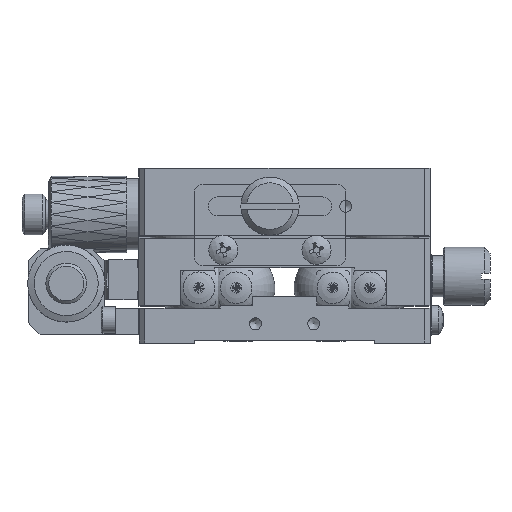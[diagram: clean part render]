
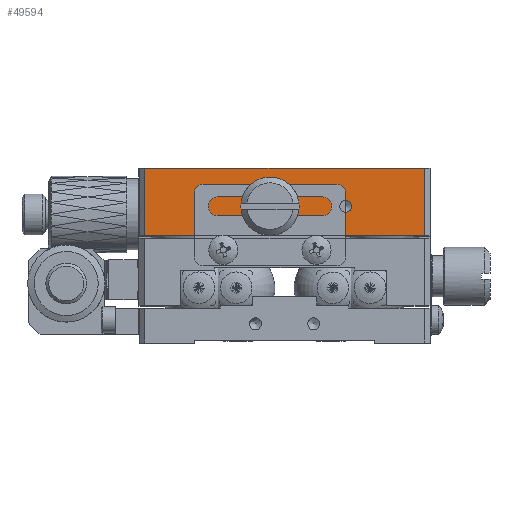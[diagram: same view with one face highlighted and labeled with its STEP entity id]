
A CAD part, top view. The second image highlights one B-rep face of the part: STEP entity #49594.
In plain terms, the highlighted planar face has unit normal (0, 0, 1).
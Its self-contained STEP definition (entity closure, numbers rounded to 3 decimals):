
#4500 = DIRECTION ( 'NONE',  ( 0., -1., 0. ) ) ;
#5150 = VECTOR ( 'NONE', #6522, 1000. ) ;
#6522 = DIRECTION ( 'NONE',  ( 1., 0., 0. ) ) ;
#8014 = LINE ( 'NONE', #98831, #5150 ) ;
#15632 = VERTEX_POINT ( 'NONE', #50055 ) ;
#15865 = FACE_OUTER_BOUND ( 'NONE', #91631, .T. ) ;
#18400 = EDGE_LOOP ( 'NONE', ( #43218 ) ) ;
#20238 = VECTOR ( 'NONE', #114127, 1000. ) ;
#22754 = ORIENTED_EDGE ( 'NONE', *, *, #141300, .F. ) ;
#23427 = AXIS2_PLACEMENT_3D ( 'NONE', #95430, #128503, #27127 ) ;
#24399 = AXIS2_PLACEMENT_3D ( 'NONE', #31782, #132412, #31041 ) ;
#27127 = DIRECTION ( 'NONE',  ( -1., 0., 0. ) ) ;
#29770 = CIRCLE ( 'NONE', #36978, 1.025 ) ;
#31041 = DIRECTION ( 'NONE',  ( 1., 0., 0. ) ) ;
#31782 = CARTESIAN_POINT ( 'NONE',  ( 22.5, 23.5, 50. ) ) ;
#34077 = CARTESIAN_POINT ( 'NONE',  ( 49., 30., 50. ) ) ;
#36978 = AXIS2_PLACEMENT_3D ( 'NONE', #76869, #122679, #136910 ) ;
#37124 = DIRECTION ( 'NONE',  ( 1., 0., 0. ) ) ;
#38049 = AXIS2_PLACEMENT_3D ( 'NONE', #103195, #58898, #37124 ) ;
#38878 = EDGE_CURVE ( 'NONE', #98290, #131621, #114399, .T. ) ;
#39741 = LINE ( 'NONE', #84063, #115355 ) ;
#43218 = ORIENTED_EDGE ( 'NONE', *, *, #121674, .F. ) ;
#48591 = CARTESIAN_POINT ( 'NONE',  ( 23.7, 23.5, 50. ) ) ;
#49594 = ADVANCED_FACE ( 'NONE', ( #49618, #59431, #118712, #15865 ), #61632, .F. ) ;
#49618 = FACE_BOUND ( 'NONE', #130152, .T. ) ;
#50055 = CARTESIAN_POINT ( 'NONE',  ( 1., 18.4, 50. ) ) ;
#55557 = CIRCLE ( 'NONE', #24399, 1.2 ) ;
#58898 = DIRECTION ( 'NONE',  ( 0., 0., 1. ) ) ;
#59431 = FACE_BOUND ( 'NONE', #18400, .T. ) ;
#60508 = EDGE_LOOP ( 'NONE', ( #78801 ) ) ;
#61632 = PLANE ( 'NONE',  #23427 ) ;
#62463 = EDGE_CURVE ( 'NONE', #145507, #15632, #39741, .T. ) ;
#63265 = ORIENTED_EDGE ( 'NONE', *, *, #111302, .F. ) ;
#66852 = CIRCLE ( 'NONE', #38049, 1.025 ) ;
#69817 = CARTESIAN_POINT ( 'NONE',  ( 0., 30., 50. ) ) ;
#73249 = EDGE_CURVE ( 'NONE', #94413, #94413, #55557, .T. ) ;
#73960 = VERTEX_POINT ( 'NONE', #85963 ) ;
#74322 = CARTESIAN_POINT ( 'NONE',  ( 36.525, 23.5, 50. ) ) ;
#75327 = CARTESIAN_POINT ( 'NONE',  ( 1., 30., 50. ) ) ;
#76869 = CARTESIAN_POINT ( 'NONE',  ( 19.5, 23.5, 50. ) ) ;
#78801 = ORIENTED_EDGE ( 'NONE', *, *, #73249, .F. ) ;
#82429 = ORIENTED_EDGE ( 'NONE', *, *, #38878, .T. ) ;
#84063 = CARTESIAN_POINT ( 'NONE',  ( 1., 30., 50. ) ) ;
#85963 = CARTESIAN_POINT ( 'NONE',  ( 20.525, 23.5, 50. ) ) ;
#91631 = EDGE_LOOP ( 'NONE', ( #63265, #121465, #124856, #82429 ) ) ;
#94413 = VERTEX_POINT ( 'NONE', #48591 ) ;
#95430 = CARTESIAN_POINT ( 'NONE',  ( 0., 30., 50. ) ) ;
#98290 = VERTEX_POINT ( 'NONE', #131429 ) ;
#98831 = CARTESIAN_POINT ( 'NONE',  ( 0., 18.4, 50. ) ) ;
#103195 = CARTESIAN_POINT ( 'NONE',  ( 35.5, 23.5, 50. ) ) ;
#111302 = EDGE_CURVE ( 'NONE', #145507, #131621, #115618, .T. ) ;
#114127 = DIRECTION ( 'NONE',  ( 1., 0., 0. ) ) ;
#114399 = LINE ( 'NONE', #146741, #144682 ) ;
#115355 = VECTOR ( 'NONE', #4500, 1000. ) ;
#115618 = LINE ( 'NONE', #69817, #20238 ) ;
#118712 = FACE_BOUND ( 'NONE', #60508, .T. ) ;
#121465 = ORIENTED_EDGE ( 'NONE', *, *, #62463, .T. ) ;
#121674 = EDGE_CURVE ( 'NONE', #131371, #131371, #66852, .T. ) ;
#122679 = DIRECTION ( 'NONE',  ( 0., 0., 1. ) ) ;
#124856 = ORIENTED_EDGE ( 'NONE', *, *, #134872, .T. ) ;
#126402 = DIRECTION ( 'NONE',  ( 0., 1., 0. ) ) ;
#128503 = DIRECTION ( 'NONE',  ( 0., 0., -1. ) ) ;
#130152 = EDGE_LOOP ( 'NONE', ( #22754 ) ) ;
#131371 = VERTEX_POINT ( 'NONE', #74322 ) ;
#131429 = CARTESIAN_POINT ( 'NONE',  ( 49., 18.4, 50. ) ) ;
#131621 = VERTEX_POINT ( 'NONE', #34077 ) ;
#132412 = DIRECTION ( 'NONE',  ( 0., 0., 1. ) ) ;
#134872 = EDGE_CURVE ( 'NONE', #15632, #98290, #8014, .T. ) ;
#136910 = DIRECTION ( 'NONE',  ( 1., 0., 0. ) ) ;
#141300 = EDGE_CURVE ( 'NONE', #73960, #73960, #29770, .T. ) ;
#144682 = VECTOR ( 'NONE', #126402, 1000. ) ;
#145507 = VERTEX_POINT ( 'NONE', #75327 ) ;
#146741 = CARTESIAN_POINT ( 'NONE',  ( 49., 30., 50. ) ) ;
